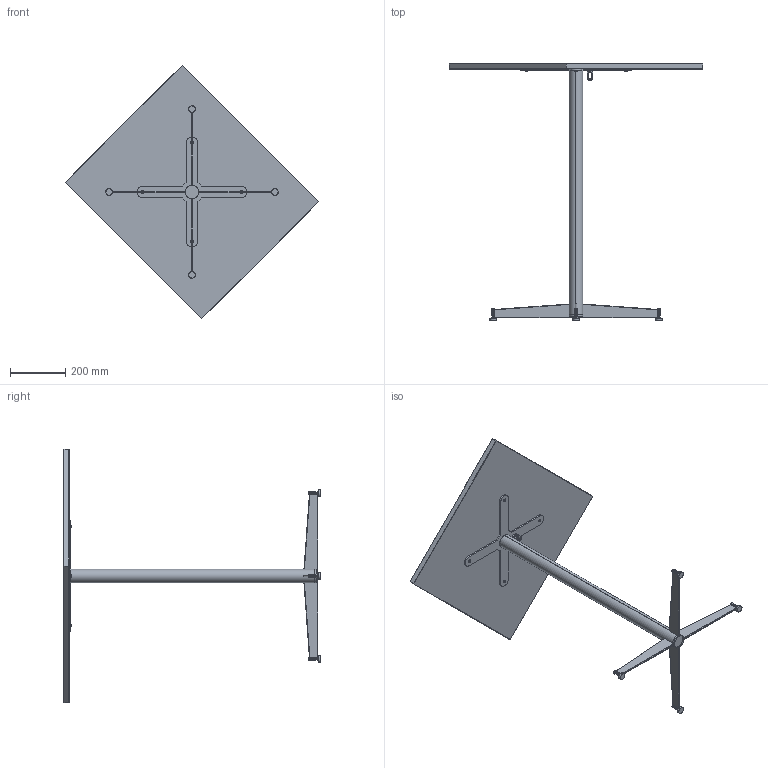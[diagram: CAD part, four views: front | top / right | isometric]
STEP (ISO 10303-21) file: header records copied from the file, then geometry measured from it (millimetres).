
FILE_DESCRIPTION (( 'STEP AP214' ), '1' );
FILE_NAME ('Nook Counter Table 60x70.STEP', '2025-10-03T12:07:52', ( '' ), ( '' ), 'SwSTEP 2.0', 'SolidWorks 2024', '' );
FILE_SCHEMA (( 'AUTOMOTIVE_DESIGN' ));
Length unit declared in the file: millimetre
Products named in the file (10): SF257M627S-Ackurat; 085B205_R01 Nook Counter Table Leg Joint Steel; 085A2016_R01 Nook Tabletop 60x70x2; 085A201_R01 Nook Dining Table X Plate Steel; 085A206_R01 Nook Dining Table Wire Attachment; 085A106_R01 Nook Dining Table X Plate Assembly Steel; 085A214_R01 Nook Table inner thread stud; Nook Counter Table 60x70; 085A206_R01 Nook Table Leg 6mm Steel test; socket button head screw_iso_ISO 7380 - M6 x 12 - 12N
Assembly tree (21 placements, depth 3):
  Nook Counter Table 60x70
    085B205_R01 Nook Counter Table Leg Joint Steel
    085A206_R01 Nook Table Leg 6mm Steel test  x4
    085A214_R01 Nook Table inner thread stud  x4
    085A106_R01 Nook Dining Table X Plate Assembly Steel
      085A201_R01 Nook Dining Table X Plate Steel
      085A206_R01 Nook Dining Table Wire Attachment
    SF257M627S-Ackurat  x4
    socket button head screw_iso_ISO 7380 - M6 x 12 - 12N  x4
    085A2016_R01 Nook Tabletop 60x70x2
Bounding box: 917.82 x 931 x 917.82 mm (x, y, z)
Volume: 9081223.9 mm3; surface area: 1353891.9 mm2
Topology: 20 solids, 20 shells, 600 faces, 1506 edges, 960 vertices
Faces by surface type: cylinder 340, plane 168, cone 40, torus 32, bspline 12, sphere 8
Entity records: 11781 total; most frequent: CARTESIAN_POINT 6043, ORIENTED_EDGE 1154, DIRECTION 1142, EDGE_CURVE 577, AXIS2_PLACEMENT_3D 432, VERTEX_POINT 363, LINE 278, VECTOR 278
